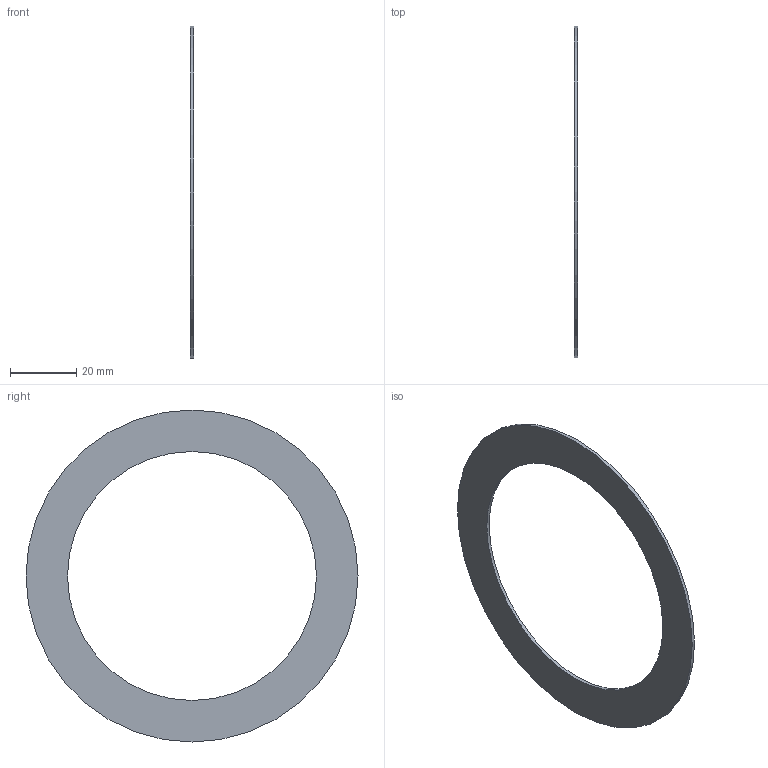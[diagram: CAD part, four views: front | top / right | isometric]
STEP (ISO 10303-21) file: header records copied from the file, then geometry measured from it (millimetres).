
FILE_DESCRIPTION(/* description */ (''),/* implementation_level */ '2;1');
FILE_NAME(/* name */ 'I:\Katalóg ihlovích ložísk\AXK---\AS--\AS 75100.stp',/* time_stamp */ '2016-12-12T14:10:15+01:00',/* author */ ('OUBALASKO'),/* organization */ (''),/* preprocessor_version */ 'ST-DEVELOPER v15.6',/* originating_system */ 'Autodesk Inventor 2015',/* authorisation */ '');
FILE_SCHEMA (('AUTOMOTIVE_DESIGN { 1 0 10303 214 3 1 1 }'));
Length unit declared in the file: millimetre
Products named in the file (1): AS 75100
Bounding box: 1 x 100 x 100 mm (x, y, z)
Volume: 3436.1 mm3; surface area: 7422 mm2
Topology: 1 solids, 1 shells, 4 faces, 6 edges, 4 vertices
Faces by surface type: plane 2, cylinder 2
Full cylindrical faces by diameter (mm): 75 x1, 100 x1
Entity records: 112 total; most frequent: DIRECTION 18, CARTESIAN_POINT 13, AXIS2_PLACEMENT_3D 9, EDGE_LOOP 8, ORIENTED_EDGE 8, FACE_BOUND 4, FACE_OUTER_BOUND 4, CIRCLE 4
